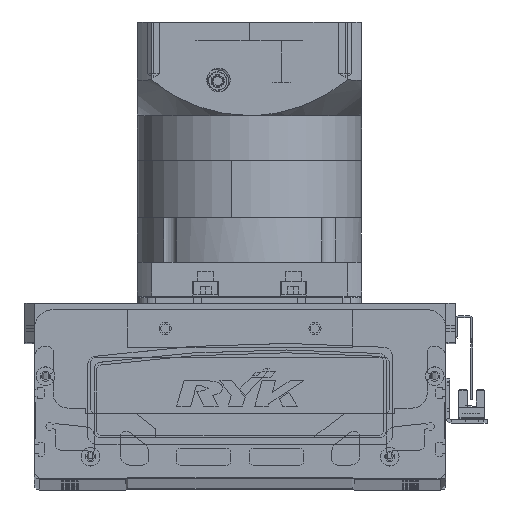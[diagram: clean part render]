
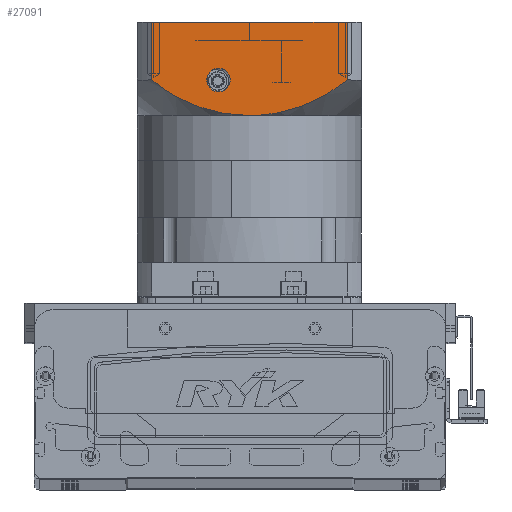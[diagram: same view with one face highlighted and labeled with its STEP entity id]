
A CAD part, top view. The second image highlights one B-rep face of the part: STEP entity #27091.
In plain terms, the highlighted planar face has unit normal (0, 0, 1) as drawn and (0, -1, 0) by its records, which use the part's own axes.
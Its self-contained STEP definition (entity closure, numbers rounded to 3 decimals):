
#119 = EDGE_CURVE ( 'NONE', #75873, #22849, #67374, .T. ) ;
#1285 = EDGE_CURVE ( 'NONE', #22849, #57879, #21021, .T. ) ;
#3295 = CARTESIAN_POINT ( 'NONE',  ( -2.376, -60., -100.5 ) ) ;
#4084 = CARTESIAN_POINT ( 'NONE',  ( -48.52, -60., -116.438 ) ) ;
#4759 = PLANE ( 'NONE',  #75145 ) ;
#5448 = DIRECTION ( 'NONE',  ( 0., 1., 0. ) ) ;
#5568 = ORIENTED_EDGE ( 'NONE', *, *, #15664, .F. ) ;
#5881 = CARTESIAN_POINT ( 'NONE',  ( -60., -60., -150.5 ) ) ;
#7691 = ORIENTED_EDGE ( 'NONE', *, *, #68559, .T. ) ;
#8255 = CARTESIAN_POINT ( 'NONE',  ( 52.156, -60., -150.5 ) ) ;
#8500 = CARTESIAN_POINT ( 'NONE',  ( 45.542, -60., -114.478 ) ) ;
#9015 = CARTESIAN_POINT ( 'NONE',  ( 23.329, -60., -103.886 ) ) ;
#9262 = CARTESIAN_POINT ( 'NONE',  ( -36.409, -60., -109.113 ) ) ;
#9515 = CARTESIAN_POINT ( 'NONE',  ( -32.118, -60., -107.084 ) ) ;
#9763 = CARTESIAN_POINT ( 'NONE',  ( -4.747, -60., -100.604 ) ) ;
#15033 = CARTESIAN_POINT ( 'NONE',  ( 16.5, -60., -119.5 ) ) ;
#15235 = EDGE_CURVE ( 'NONE', #62397, #53433, #17422, .T. ) ;
#15436 = CARTESIAN_POINT ( 'NONE',  ( -18.792, -60., -102.562 ) ) ;
#15664 = EDGE_CURVE ( 'NONE', #57879, #44712, #37033, .T. ) ;
#15990 = FACE_OUTER_BOUND ( 'NONE', #46063, .T. ) ;
#16871 = CARTESIAN_POINT ( 'NONE',  ( -60., -60., -150.5 ) ) ;
#17009 = ORIENTED_EDGE ( 'NONE', *, *, #66730, .T. ) ;
#17422 = CIRCLE ( 'NONE', #52700, 6.25 ) ;
#18342 = VECTOR ( 'NONE', #24167, 1000. ) ;
#19461 = EDGE_CURVE ( 'NONE', #69483, #44712, #52934, .T. ) ;
#20860 = CARTESIAN_POINT ( 'NONE',  ( 18.739, -60., -102.681 ) ) ;
#21021 = B_SPLINE_CURVE_WITH_KNOTS ( 'NONE', 3,
 ( #74129, #4084, #74896, #27357, #26590, #9262, #32521, #9515, #51115, #50869, #15436, #56574, #62242, #39454, #21125, #9763, #3295, #27613 ),
 .UNSPECIFIED., .F., .F.,
 ( 4, 2, 2, 2, 2, 2, 2, 2, 4 ),
 ( 0., 0.014, 0.018, 0.021, 0.028, 0.042, 0.046, 0.05, 0.057 ),
 .UNSPECIFIED. ) ;
#21125 = CARTESIAN_POINT ( 'NONE',  ( -8.294, -60., -100.916 ) ) ;
#21132 = CARTESIAN_POINT ( 'NONE',  ( 19.894, -60., -102.964 ) ) ;
#22005 = ORIENTED_EDGE ( 'NONE', *, *, #1285, .F. ) ;
#22849 = VERTEX_POINT ( 'NONE', #53898 ) ;
#24167 = DIRECTION ( 'NONE',  ( 0., 0., 1. ) ) ;
#26333 = CARTESIAN_POINT ( 'NONE',  ( 9.454, -60., -100.914 ) ) ;
#26590 = CARTESIAN_POINT ( 'NONE',  ( -38.51, -60., -110.207 ) ) ;
#27091 = ADVANCED_FACE ( 'NONE', ( #15990, #74274 ), #4759, .T. ) ;
#27105 = CARTESIAN_POINT ( 'NONE',  ( 25.577, -60., -104.596 ) ) ;
#27357 = CARTESIAN_POINT ( 'NONE',  ( -39.546, -60., -110.776 ) ) ;
#27613 = CARTESIAN_POINT ( 'NONE',  ( 0., -60., -100.5 ) ) ;
#27981 = VECTOR ( 'NONE', #38684, 1000. ) ;
#28790 = DIRECTION ( 'NONE',  ( 0., -1., 0. ) ) ;
#29596 = ORIENTED_EDGE ( 'NONE', *, *, #119, .F. ) ;
#29608 = CARTESIAN_POINT ( 'NONE',  ( -52.156, -60., -97.5 ) ) ;
#32521 = CARTESIAN_POINT ( 'NONE',  ( -35.342, -60., -108.587 ) ) ;
#36879 = ORIENTED_EDGE ( 'NONE', *, *, #15235, .T. ) ;
#37033 = B_SPLINE_CURVE_WITH_KNOTS ( 'NONE', 3,
 ( #38176, #37933, #26333, #44643, #62486, #20860, #21132, #9015, #27105, #56069, #50117, #50874, #67641, #73866, #8500, #44379, #55813, #44131 ),
 .UNSPECIFIED., .F., .F.,
 ( 4, 2, 2, 2, 2, 2, 2, 2, 4 ),
 ( 0., 0.014, 0.018, 0.021, 0.028, 0.042, 0.046, 0.05, 0.057 ),
 .UNSPECIFIED. ) ;
#37933 = CARTESIAN_POINT ( 'NONE',  ( 4.753, -60., -100.5 ) ) ;
#38176 = CARTESIAN_POINT ( 'NONE',  ( 0., -60., -100.5 ) ) ;
#38684 = DIRECTION ( 'NONE',  ( 0., 0., 1. ) ) ;
#39454 = CARTESIAN_POINT ( 'NONE',  ( -9.477, -60., -101.046 ) ) ;
#44131 = CARTESIAN_POINT ( 'NONE',  ( 52.156, -60., -119.5 ) ) ;
#44379 = CARTESIAN_POINT ( 'NONE',  ( 48.457, -60., -116.522 ) ) ;
#44643 = CARTESIAN_POINT ( 'NONE',  ( 15.267, -60., -101.938 ) ) ;
#44712 = VERTEX_POINT ( 'NONE', #66590 ) ;
#45262 = DIRECTION ( 'NONE',  ( 0., 0., -1. ) ) ;
#45519 = DIRECTION ( 'NONE',  ( 0., 1., 0. ) ) ;
#46063 = EDGE_LOOP ( 'NONE', ( #29596, #17009, #56854, #5568, #22005 ) ) ;
#46079 = DIRECTION ( 'NONE',  ( 1., 0., 0. ) ) ;
#49791 = CIRCLE ( 'NONE', #67638, 6.25 ) ;
#49850 = CARTESIAN_POINT ( 'NONE',  ( 52.156, -60., -150.5 ) ) ;
#50117 = CARTESIAN_POINT ( 'NONE',  ( 36.444, -60., -108.986 ) ) ;
#50869 = CARTESIAN_POINT ( 'NONE',  ( -23.319, -60., -103.777 ) ) ;
#50874 = CARTESIAN_POINT ( 'NONE',  ( 41.545, -60., -111.931 ) ) ;
#50876 = CARTESIAN_POINT ( 'NONE',  ( 0., -60., -100.5 ) ) ;
#51115 = CARTESIAN_POINT ( 'NONE',  ( -29.939, -60., -106.183 ) ) ;
#52700 = AXIS2_PLACEMENT_3D ( 'NONE', #69785, #5448, #64843 ) ;
#52934 = LINE ( 'NONE', #49850, #27981 ) ;
#53433 = VERTEX_POINT ( 'NONE', #68696 ) ;
#53581 = CARTESIAN_POINT ( 'NONE',  ( -52.156, -60., -150.5 ) ) ;
#53898 = CARTESIAN_POINT ( 'NONE',  ( -52.156, -60., -119.5 ) ) ;
#55645 = VECTOR ( 'NONE', #76656, 1000. ) ;
#55813 = CARTESIAN_POINT ( 'NONE',  ( 50.338, -60., -117.969 ) ) ;
#56069 = CARTESIAN_POINT ( 'NONE',  ( 32.196, -60., -107.007 ) ) ;
#56574 = CARTESIAN_POINT ( 'NONE',  ( -12.993, -60., -101.537 ) ) ;
#56854 = ORIENTED_EDGE ( 'NONE', *, *, #19461, .T. ) ;
#57879 = VERTEX_POINT ( 'NONE', #50876 ) ;
#60630 = CARTESIAN_POINT ( 'NONE',  ( 16.5, -60., -113.25 ) ) ;
#62242 = CARTESIAN_POINT ( 'NONE',  ( -11.825, -60., -101.356 ) ) ;
#62397 = VERTEX_POINT ( 'NONE', #60630 ) ;
#62486 = CARTESIAN_POINT ( 'NONE',  ( 16.426, -60., -102.169 ) ) ;
#64843 = DIRECTION ( 'NONE',  ( 0., 0., -1. ) ) ;
#66590 = CARTESIAN_POINT ( 'NONE',  ( 52.156, -60., -119.5 ) ) ;
#66730 = EDGE_CURVE ( 'NONE', #75873, #69483, #72218, .T. ) ;
#67374 = LINE ( 'NONE', #29608, #18342 ) ;
#67507 = EDGE_LOOP ( 'NONE', ( #7691, #36879 ) ) ;
#67638 = AXIS2_PLACEMENT_3D ( 'NONE', #15033, #45519, #45262 ) ;
#67641 = CARTESIAN_POINT ( 'NONE',  ( 42.555, -60., -112.543 ) ) ;
#68559 = EDGE_CURVE ( 'NONE', #53433, #62397, #49791, .T. ) ;
#68696 = CARTESIAN_POINT ( 'NONE',  ( 16.5, -60., -125.75 ) ) ;
#69483 = VERTEX_POINT ( 'NONE', #8255 ) ;
#69785 = CARTESIAN_POINT ( 'NONE',  ( 16.5, -60., -119.5 ) ) ;
#72218 = LINE ( 'NONE', #5881, #55645 ) ;
#73866 = CARTESIAN_POINT ( 'NONE',  ( 44.553, -60., -113.817 ) ) ;
#74129 = CARTESIAN_POINT ( 'NONE',  ( -52.156, -60., -119.5 ) ) ;
#74274 = FACE_BOUND ( 'NONE', #67507, .T. ) ;
#74896 = CARTESIAN_POINT ( 'NONE',  ( -44.656, -60., -113.73 ) ) ;
#75145 = AXIS2_PLACEMENT_3D ( 'NONE', #16871, #28790, #46079 ) ;
#75873 = VERTEX_POINT ( 'NONE', #53581 ) ;
#76656 = DIRECTION ( 'NONE',  ( 1., 0., 0. ) ) ;
